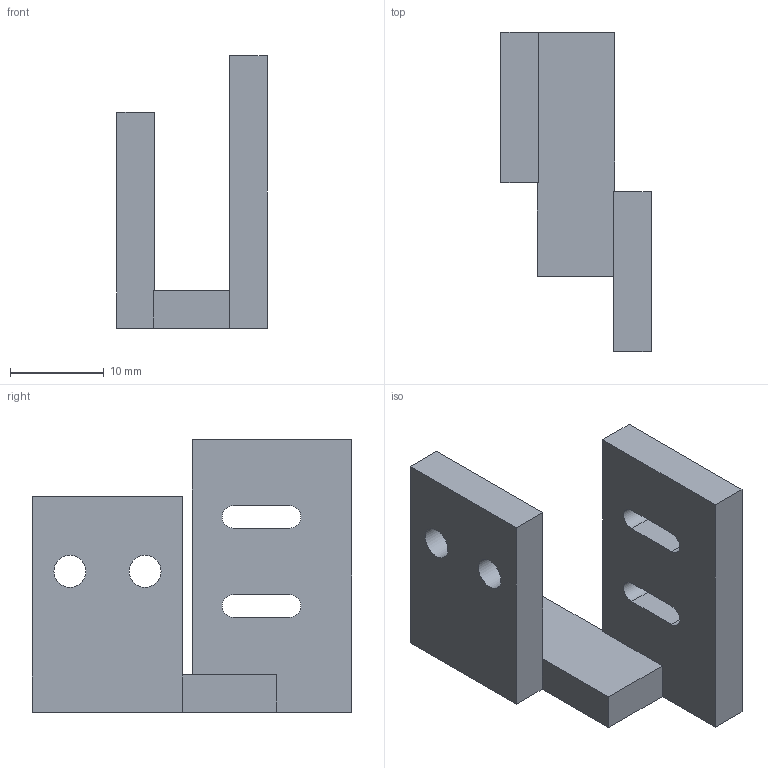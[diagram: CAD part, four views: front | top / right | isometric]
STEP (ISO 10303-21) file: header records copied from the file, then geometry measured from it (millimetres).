
FILE_DESCRIPTION(('Open CASCADE Model'),'2;1');
FILE_NAME('Open CASCADE Shape Model','2026-10-22T07:40:54',('Author'),( 'Open CASCADE'),'Open CASCADE STEP processor 7.8','Open CASCADE 7.8' ,'Unknown');
FILE_SCHEMA(('AUTOMOTIVE_DESIGN { 1 0 10303 214 1 1 1 1 }'));
Length unit declared in the file: millimetre
Products named in the file (1): Open CASCADE STEP translator 7.8 4
Bounding box: 16 x 34 x 29 mm (x, y, z)
Volume: 4062.8 mm3; surface area: 3025.2 mm2
Topology: 1 solids, 1 shells, 25 faces, 69 edges, 46 vertices
Faces by surface type: plane 19, cylinder 6
Full cylindrical faces by diameter (mm): 3.4 x2
Entity records: 1754 total; most frequent: CARTESIAN_POINT 351, DIRECTION 259, LINE 183, VECTOR 183, ORIENTED_EDGE 138, PCURVE 138, DEFINITIONAL_REPRESENTATION 138, EDGE_CURVE 69
